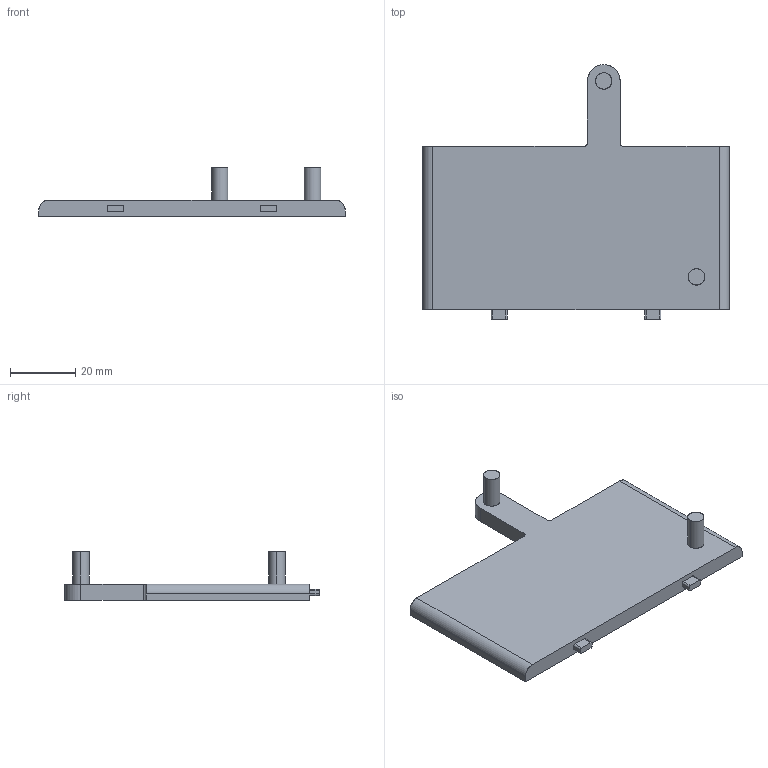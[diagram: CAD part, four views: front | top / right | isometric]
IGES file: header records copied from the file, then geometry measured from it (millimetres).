
Start section: SolidWorks IGES file using analytic representation for surfaces
Global section: file name: E:\Studium\I4.0\fts\Kleine Bauteile\wand-oben.IGS; native system: SolidWorks 2013; preprocessor: SolidWorks 2013; author: Ludwig Jiawei Luo; date: 180202.213639; units: millimetre
Bounding box: 93.8 x 78 x 15 mm (x, y, z)
Surface area: 11778.2 mm2 (no closed solid volume)
Topology: 0 solids, 0 shells, 38 faces, 446 edges, 446 vertices
Faces by surface type: bspline 21, revolution 17
